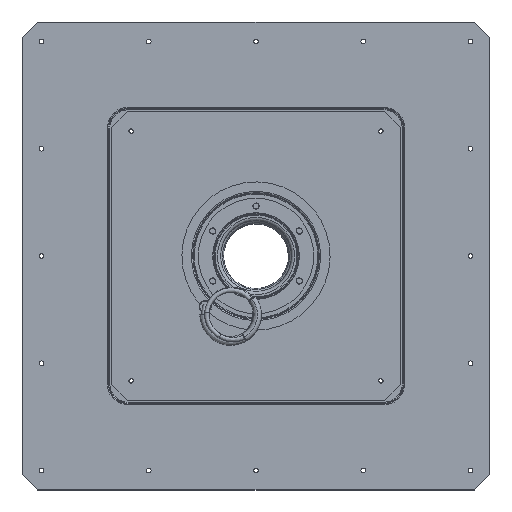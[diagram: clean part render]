
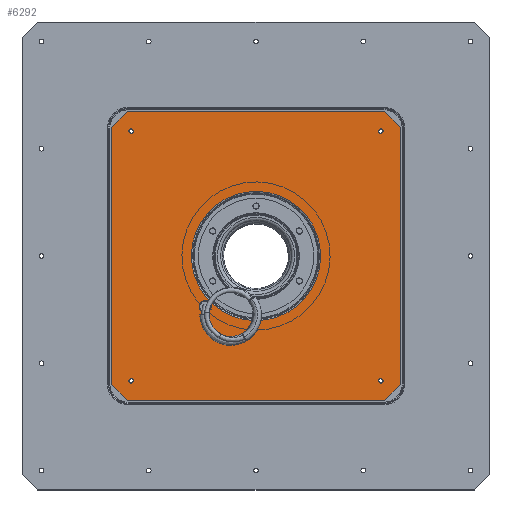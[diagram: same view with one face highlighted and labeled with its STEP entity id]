
A CAD part, top view. The second image highlights one B-rep face of the part: STEP entity #6292.
In plain terms, the highlighted planar face has unit normal (0, 0, 1).
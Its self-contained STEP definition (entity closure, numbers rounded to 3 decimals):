
#440=LINE('',#8840,#633);
#446=LINE('',#8851,#639);
#447=LINE('',#8854,#640);
#452=LINE('',#8863,#645);
#453=LINE('',#8866,#646);
#458=LINE('',#8875,#651);
#461=LINE('',#8881,#654);
#462=LINE('',#8883,#655);
#633=VECTOR('',#7412,28.284);
#639=VECTOR('',#7420,330.);
#640=VECTOR('',#7423,330.);
#645=VECTOR('',#7430,28.284);
#646=VECTOR('',#7433,330.);
#651=VECTOR('',#7440,28.284);
#654=VECTOR('',#7445,330.);
#655=VECTOR('',#7448,28.284);
#974=PLANE('',#6754);
#1136=FACE_BOUND('',#1861,.T.);
#1137=FACE_BOUND('',#1862,.T.);
#1138=FACE_BOUND('',#1863,.T.);
#1139=FACE_BOUND('',#1864,.T.);
#1140=FACE_BOUND('',#1865,.T.);
#1141=FACE_BOUND('',#1866,.T.);
#1430=FACE_OUTER_BOUND('',#1860,.T.);
#1860=EDGE_LOOP('',(#4321,#4322,#4323,#4324,#4325,#4326,#4327,#4328));
#1861=EDGE_LOOP('',(#4329));
#1862=EDGE_LOOP('',(#4330));
#1863=EDGE_LOOP('',(#4331));
#1864=EDGE_LOOP('',(#4332));
#1865=EDGE_LOOP('',(#4333));
#1866=EDGE_LOOP('',(#4334));
#2479=CIRCLE('',#6684,82.824);
#2508=CIRCLE('',#6742,3.);
#2510=CIRCLE('',#6745,3.);
#2512=CIRCLE('',#6748,3.);
#2514=CIRCLE('',#6751,3.);
#2516=CIRCLE('',#6755,6.);
#2783=VERTEX_POINT('',#8761);
#2811=VERTEX_POINT('',#8838);
#2812=VERTEX_POINT('',#8839);
#2816=VERTEX_POINT('',#8849);
#2817=VERTEX_POINT('',#8853);
#2820=VERTEX_POINT('',#8861);
#2821=VERTEX_POINT('',#8865);
#2824=VERTEX_POINT('',#8873);
#2826=VERTEX_POINT('',#8879);
#2828=VERTEX_POINT('',#8888);
#2830=VERTEX_POINT('',#8893);
#2832=VERTEX_POINT('',#8898);
#2834=VERTEX_POINT('',#8903);
#2836=VERTEX_POINT('',#8909);
#3411=EDGE_CURVE('',#2783,#2783,#2479,.T.);
#3439=EDGE_CURVE('',#2811,#2812,#440,.T.);
#3445=EDGE_CURVE('',#2812,#2816,#446,.T.);
#3446=EDGE_CURVE('',#2817,#2811,#447,.T.);
#3451=EDGE_CURVE('',#2816,#2820,#452,.T.);
#3452=EDGE_CURVE('',#2820,#2821,#453,.T.);
#3457=EDGE_CURVE('',#2821,#2824,#458,.T.);
#3460=EDGE_CURVE('',#2824,#2826,#461,.T.);
#3461=EDGE_CURVE('',#2826,#2817,#462,.T.);
#3464=EDGE_CURVE('',#2828,#2828,#2508,.T.);
#3466=EDGE_CURVE('',#2830,#2830,#2510,.T.);
#3468=EDGE_CURVE('',#2832,#2832,#2512,.T.);
#3470=EDGE_CURVE('',#2834,#2834,#2514,.T.);
#3472=EDGE_CURVE('',#2836,#2836,#2516,.T.);
#4321=ORIENTED_EDGE('',*,*,#3446,.T.);
#4322=ORIENTED_EDGE('',*,*,#3439,.T.);
#4323=ORIENTED_EDGE('',*,*,#3445,.T.);
#4324=ORIENTED_EDGE('',*,*,#3451,.T.);
#4325=ORIENTED_EDGE('',*,*,#3452,.T.);
#4326=ORIENTED_EDGE('',*,*,#3457,.T.);
#4327=ORIENTED_EDGE('',*,*,#3460,.T.);
#4328=ORIENTED_EDGE('',*,*,#3461,.T.);
#4329=ORIENTED_EDGE('',*,*,#3472,.F.);
#4330=ORIENTED_EDGE('',*,*,#3411,.F.);
#4331=ORIENTED_EDGE('',*,*,#3464,.F.);
#4332=ORIENTED_EDGE('',*,*,#3466,.F.);
#4333=ORIENTED_EDGE('',*,*,#3468,.F.);
#4334=ORIENTED_EDGE('',*,*,#3470,.F.);
#6292=ADVANCED_FACE('',(#1430,#1136,#1137,#1138,#1139,#1140,#1141),#974,
 .T.);
#6684=AXIS2_PLACEMENT_3D('',#8762,#7314,#7315);
#6742=AXIS2_PLACEMENT_3D('',#8889,#7454,#7455);
#6745=AXIS2_PLACEMENT_3D('',#8894,#7460,#7461);
#6748=AXIS2_PLACEMENT_3D('',#8899,#7466,#7467);
#6751=AXIS2_PLACEMENT_3D('',#8904,#7472,#7473);
#6754=AXIS2_PLACEMENT_3D('',#8908,#7478,#7479);
#6755=AXIS2_PLACEMENT_3D('',#8910,#7480,#7481);
#7314=DIRECTION('center_axis',(0.,0.,
1.));
#7315=DIRECTION('ref_axis',(-0.479,0.878,0.));
#7412=DIRECTION('',(-0.707,-0.707,0.));
#7420=DIRECTION('',(0.,-1.,0.));
#7423=DIRECTION('',(-1.,0.,0.));
#7430=DIRECTION('',(0.707,-0.707,0.));
#7433=DIRECTION('',(1.,0.,0.));
#7440=DIRECTION('',(0.707,0.707,0.));
#7445=DIRECTION('',(0.,1.,0.));
#7448=DIRECTION('',(-0.707,0.707,0.));
#7454=DIRECTION('center_axis',(0.,0.,
1.));
#7455=DIRECTION('ref_axis',(1.,0.,0.));
#7460=DIRECTION('center_axis',(0.,0.,
1.));
#7461=DIRECTION('ref_axis',(1.,0.,0.));
#7466=DIRECTION('center_axis',(0.,0.,
1.));
#7467=DIRECTION('ref_axis',(1.,0.,0.));
#7472=DIRECTION('center_axis',(0.,0.,
1.));
#7473=DIRECTION('ref_axis',(1.,0.,0.));
#7478=DIRECTION('center_axis',(0.,0.,
1.));
#7479=DIRECTION('ref_axis',(1.,0.,0.));
#7480=DIRECTION('center_axis',(0.,0.,
1.));
#7481=DIRECTION('ref_axis',(-0.282,-0.96,0.));
#8761=CARTESIAN_POINT('',(-39.708,72.685,0.));
#8762=CARTESIAN_POINT('Origin',(0.,0.,
0.));
#8838=CARTESIAN_POINT('',(-165.,185.,0.));
#8839=CARTESIAN_POINT('',(-185.,165.,0.));
#8840=CARTESIAN_POINT('',(-165.,185.,0.));
#8849=CARTESIAN_POINT('',(-185.,-165.,0.));
#8851=CARTESIAN_POINT('',(-185.,165.,0.));
#8853=CARTESIAN_POINT('',(165.,185.,0.));
#8854=CARTESIAN_POINT('',(165.,185.,0.));
#8861=CARTESIAN_POINT('',(-165.,-185.,0.));
#8863=CARTESIAN_POINT('',(-185.,-165.,0.));
#8865=CARTESIAN_POINT('',(165.,-185.,0.));
#8866=CARTESIAN_POINT('',(-165.,-185.,0.));
#8873=CARTESIAN_POINT('',(185.,-165.,0.));
#8875=CARTESIAN_POINT('',(165.,-185.,0.));
#8879=CARTESIAN_POINT('',(185.,165.,0.));
#8881=CARTESIAN_POINT('',(185.,-165.,0.));
#8883=CARTESIAN_POINT('',(185.,165.,0.));
#8888=CARTESIAN_POINT('',(-163.,-160.,0.));
#8889=CARTESIAN_POINT('Origin',(-160.,-160.,0.));
#8893=CARTESIAN_POINT('',(-163.,160.,0.));
#8894=CARTESIAN_POINT('Origin',(-160.,160.,0.));
#8898=CARTESIAN_POINT('',(157.,160.,0.));
#8899=CARTESIAN_POINT('Origin',(160.,160.,0.));
#8903=CARTESIAN_POINT('',(157.,-160.,0.));
#8904=CARTESIAN_POINT('Origin',(160.,-160.,0.));
#8908=CARTESIAN_POINT('Origin',(0.,82.824,0.));
#8909=CARTESIAN_POINT('',(-63.365,-59.297,0.));
#8910=CARTESIAN_POINT('Origin',(-65.054,-65.054,0.));
